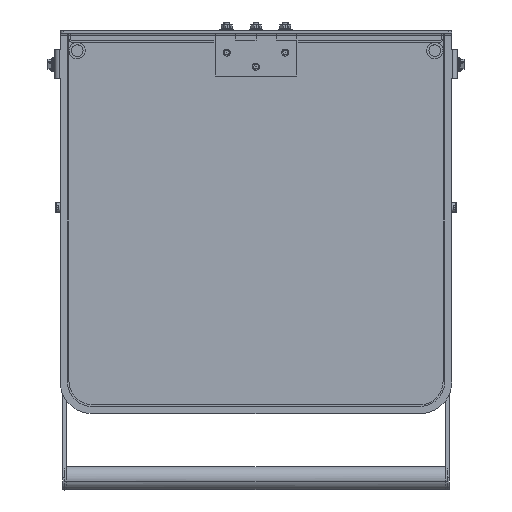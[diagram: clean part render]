
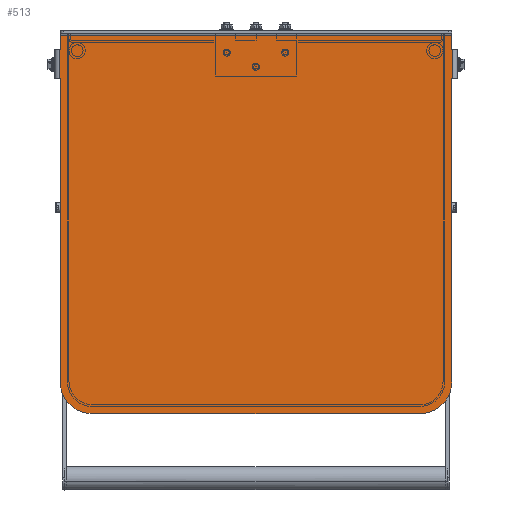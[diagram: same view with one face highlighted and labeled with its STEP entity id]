
A CAD part, top view. The second image highlights one B-rep face of the part: STEP entity #513.
In plain terms, the highlighted planar face has unit normal (0, 0, 1).
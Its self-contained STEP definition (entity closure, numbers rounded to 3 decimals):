
#363=FACE_BOUND('',#1550,.T.);
#364=FACE_BOUND('',#1551,.T.);
#365=FACE_BOUND('',#1552,.T.);
#513=ADVANCED_FACE('',(#1022,#363,#364,#365),#7420,.T.);
#1022=FACE_OUTER_BOUND('',#1549,.T.);
#1549=EDGE_LOOP('',(#2490,#2491,#2492,#2493,#2494,#2495,#2496,#2497,#2498,
#2499,#2500,#2501,#2502,#2503));
#1550=EDGE_LOOP('',(#2504,#2505));
#1551=EDGE_LOOP('',(#2506,#2507));
#1552=EDGE_LOOP('',(#2508,#2509));
#2490=ORIENTED_EDGE('',*,*,#4605,.T.);
#2491=ORIENTED_EDGE('',*,*,#4594,.T.);
#2492=ORIENTED_EDGE('',*,*,#4595,.T.);
#2493=ORIENTED_EDGE('',*,*,#4596,.T.);
#2494=ORIENTED_EDGE('',*,*,#4597,.T.);
#2495=ORIENTED_EDGE('',*,*,#4598,.T.);
#2496=ORIENTED_EDGE('',*,*,#4599,.T.);
#2497=ORIENTED_EDGE('',*,*,#4600,.T.);
#2498=ORIENTED_EDGE('',*,*,#4628,.T.);
#2499=ORIENTED_EDGE('',*,*,#4601,.T.);
#2500=ORIENTED_EDGE('',*,*,#4632,.T.);
#2501=ORIENTED_EDGE('',*,*,#4602,.T.);
#2502=ORIENTED_EDGE('',*,*,#4603,.T.);
#2503=ORIENTED_EDGE('',*,*,#4604,.T.);
#2504=ORIENTED_EDGE('',*,*,#4689,.T.);
#2505=ORIENTED_EDGE('',*,*,#4576,.T.);
#2506=ORIENTED_EDGE('',*,*,#4580,.T.);
#2507=ORIENTED_EDGE('',*,*,#4687,.T.);
#2508=ORIENTED_EDGE('',*,*,#4584,.T.);
#2509=ORIENTED_EDGE('',*,*,#4685,.T.);
#4576=EDGE_CURVE('',#6823,#6822,#6340,.T.);
#4580=EDGE_CURVE('',#6827,#6826,#6342,.T.);
#4584=EDGE_CURVE('',#6831,#6830,#6344,.T.);
#4594=EDGE_CURVE('',#6840,#6841,#5662,.T.);
#4595=EDGE_CURVE('',#6841,#6842,#5663,.T.);
#4596=EDGE_CURVE('',#6842,#6843,#5664,.T.);
#4597=EDGE_CURVE('',#6843,#6844,#5665,.T.);
#4598=EDGE_CURVE('',#6844,#6845,#5666,.T.);
#4599=EDGE_CURVE('',#6845,#6846,#5667,.T.);
#4600=EDGE_CURVE('',#6846,#6847,#5668,.T.);
#4601=EDGE_CURVE('',#6848,#6849,#5669,.T.);
#4602=EDGE_CURVE('',#6850,#6851,#5670,.T.);
#4603=EDGE_CURVE('',#6851,#6852,#5671,.T.);
#4604=EDGE_CURVE('',#6852,#6853,#5672,.T.);
#4605=EDGE_CURVE('',#6853,#6840,#5673,.T.);
#4628=EDGE_CURVE('',#6847,#6848,#6350,.T.);
#4632=EDGE_CURVE('',#6849,#6850,#6352,.T.);
#4685=EDGE_CURVE('',#6830,#6831,#6374,.T.);
#4687=EDGE_CURVE('',#6826,#6827,#6376,.T.);
#4689=EDGE_CURVE('',#6822,#6823,#6378,.T.);
#5662=B_SPLINE_CURVE_WITH_KNOTS('',1,(#11436,#11437),.UNSPECIFIED.,.F.,
 .F.,(2,2),(0.,12.),.UNSPECIFIED.);
#5663=B_SPLINE_CURVE_WITH_KNOTS('',1,(#11438,#11439),.UNSPECIFIED.,.F.,
 .F.,(2,2),(0.,335.),.UNSPECIFIED.);
#5664=B_SPLINE_CURVE_WITH_KNOTS('',1,(#11440,#11441),.UNSPECIFIED.,.F.,
 .F.,(2,2),(0.,12.),.UNSPECIFIED.);
#5665=B_SPLINE_CURVE_WITH_KNOTS('',1,(#11442,#11443),.UNSPECIFIED.,.F.,
 .F.,(2,2),(0.,1.),.UNSPECIFIED.);
#5666=B_SPLINE_CURVE_WITH_KNOTS('',1,(#11444,#11445),.UNSPECIFIED.,.F.,
 .F.,(2,2),(0.,25.),.UNSPECIFIED.);
#5667=B_SPLINE_CURVE_WITH_KNOTS('',1,(#11446,#11447),.UNSPECIFIED.,.F.,
 .F.,(2,2),(0.,1.),.UNSPECIFIED.);
#5668=B_SPLINE_CURVE_WITH_KNOTS('',1,(#11448,#11449),.UNSPECIFIED.,.F.,
 .F.,(2,2),(0.,259.5),.UNSPECIFIED.);
#5669=B_SPLINE_CURVE_WITH_KNOTS('',1,(#11450,#11451),.UNSPECIFIED.,.F.,
 .F.,(2,2),(0.,281.),.UNSPECIFIED.);
#5670=B_SPLINE_CURVE_WITH_KNOTS('',1,(#11452,#11453),.UNSPECIFIED.,.F.,
 .F.,(2,2),(0.,259.5),.UNSPECIFIED.);
#5671=B_SPLINE_CURVE_WITH_KNOTS('',1,(#11454,#11455),.UNSPECIFIED.,.F.,
 .F.,(2,2),(0.,1.),.UNSPECIFIED.);
#5672=B_SPLINE_CURVE_WITH_KNOTS('',1,(#11456,#11457),.UNSPECIFIED.,.F.,
 .F.,(2,2),(0.,25.),.UNSPECIFIED.);
#5673=B_SPLINE_CURVE_WITH_KNOTS('',1,(#11458,#11459),.UNSPECIFIED.,.F.,
 .F.,(2,2),(0.,1.),.UNSPECIFIED.);
#6340=(
BOUNDED_CURVE()
B_SPLINE_CURVE(2,(#11373,#11374,#11375,#11376,#11377),.UNSPECIFIED.,.F.,
 .F.)
B_SPLINE_CURVE_WITH_KNOTS((3,2,3),(-0.236,-0.118,
0.),.UNSPECIFIED.)
CURVE()
GEOMETRIC_REPRESENTATION_ITEM()
RATIONAL_B_SPLINE_CURVE((1.,0.707,1.,0.707,1.))
REPRESENTATION_ITEM('')
);
#6342=(
BOUNDED_CURVE()
B_SPLINE_CURVE(2,(#11387,#11388,#11389,#11390,#11391),.UNSPECIFIED.,.F.,
 .F.)
B_SPLINE_CURVE_WITH_KNOTS((3,2,3),(-0.236,-0.118,
0.),.UNSPECIFIED.)
CURVE()
GEOMETRIC_REPRESENTATION_ITEM()
RATIONAL_B_SPLINE_CURVE((1.,0.707,1.,0.707,1.))
REPRESENTATION_ITEM('')
);
#6344=(
BOUNDED_CURVE()
B_SPLINE_CURVE(2,(#11401,#11402,#11403,#11404,#11405),.UNSPECIFIED.,.F.,
 .F.)
B_SPLINE_CURVE_WITH_KNOTS((3,2,3),(-0.236,-0.118,
0.),.UNSPECIFIED.)
CURVE()
GEOMETRIC_REPRESENTATION_ITEM()
RATIONAL_B_SPLINE_CURVE((1.,0.707,1.,0.707,1.))
REPRESENTATION_ITEM('')
);
#6350=(
BOUNDED_CURVE()
B_SPLINE_CURVE(2,(#11505,#11506,#11507),.UNSPECIFIED.,.F.,.F.)
B_SPLINE_CURVE_WITH_KNOTS((3,3),(-42.412,0.),.UNSPECIFIED.)
CURVE()
GEOMETRIC_REPRESENTATION_ITEM()
RATIONAL_B_SPLINE_CURVE((1.,0.707,1.))
REPRESENTATION_ITEM('')
);
#6352=(
BOUNDED_CURVE()
B_SPLINE_CURVE(2,(#11515,#11516,#11517),.UNSPECIFIED.,.F.,.F.)
B_SPLINE_CURVE_WITH_KNOTS((3,3),(-42.412,0.),.UNSPECIFIED.)
CURVE()
GEOMETRIC_REPRESENTATION_ITEM()
RATIONAL_B_SPLINE_CURVE((1.,0.707,1.))
REPRESENTATION_ITEM('')
);
#6374=(
BOUNDED_CURVE()
B_SPLINE_CURVE(2,(#11653,#11654,#11655,#11656,#11657),.UNSPECIFIED.,.F.,
 .F.)
B_SPLINE_CURVE_WITH_KNOTS((3,2,3),(-0.236,-0.118,
0.),.UNSPECIFIED.)
CURVE()
GEOMETRIC_REPRESENTATION_ITEM()
RATIONAL_B_SPLINE_CURVE((1.,0.707,1.,0.707,1.))
REPRESENTATION_ITEM('')
);
#6376=(
BOUNDED_CURVE()
B_SPLINE_CURVE(2,(#11663,#11664,#11665,#11666,#11667),.UNSPECIFIED.,.F.,
 .F.)
B_SPLINE_CURVE_WITH_KNOTS((3,2,3),(-0.236,-0.118,
0.),.UNSPECIFIED.)
CURVE()
GEOMETRIC_REPRESENTATION_ITEM()
RATIONAL_B_SPLINE_CURVE((1.,0.707,1.,0.707,1.))
REPRESENTATION_ITEM('')
);
#6378=(
BOUNDED_CURVE()
B_SPLINE_CURVE(2,(#11673,#11674,#11675,#11676,#11677),.UNSPECIFIED.,.F.,
 .F.)
B_SPLINE_CURVE_WITH_KNOTS((3,2,3),(-0.236,-0.118,
0.),.UNSPECIFIED.)
CURVE()
GEOMETRIC_REPRESENTATION_ITEM()
RATIONAL_B_SPLINE_CURVE((1.,0.707,1.,0.707,1.))
REPRESENTATION_ITEM('')
);
#6822=VERTEX_POINT('',#11284);
#6823=VERTEX_POINT('',#11285);
#6826=VERTEX_POINT('',#11288);
#6827=VERTEX_POINT('',#11289);
#6830=VERTEX_POINT('',#11292);
#6831=VERTEX_POINT('',#11293);
#6840=VERTEX_POINT('',#11302);
#6841=VERTEX_POINT('',#11303);
#6842=VERTEX_POINT('',#11304);
#6843=VERTEX_POINT('',#11305);
#6844=VERTEX_POINT('',#11306);
#6845=VERTEX_POINT('',#11307);
#6846=VERTEX_POINT('',#11308);
#6847=VERTEX_POINT('',#11309);
#6848=VERTEX_POINT('',#11310);
#6849=VERTEX_POINT('',#11311);
#6850=VERTEX_POINT('',#11312);
#6851=VERTEX_POINT('',#11313);
#6852=VERTEX_POINT('',#11314);
#6853=VERTEX_POINT('',#11315);
#7420=PLANE('',#8395);
#8395=AXIS2_PLACEMENT_3D('',#10908,#8767,$);
#8767=DIRECTION('',(0.,0.,1.));
#10908=CARTESIAN_POINT('',(-202.2,-209.85,1.5));
#11284=CARTESIAN_POINT('',(-25.075,131.25,1.5));
#11285=CARTESIAN_POINT('',(-24.925,131.25,1.5));
#11288=CARTESIAN_POINT('',(24.925,131.25,1.5));
#11289=CARTESIAN_POINT('',(25.075,131.25,1.5));
#11292=CARTESIAN_POINT('',(-0.075,119.25,1.5));
#11293=CARTESIAN_POINT('',(0.075,119.25,1.5));
#11302=CARTESIAN_POINT('',(167.5,134.,1.5));
#11303=CARTESIAN_POINT('',(167.5,146.,1.5));
#11304=CARTESIAN_POINT('',(-167.5,146.,1.5));
#11305=CARTESIAN_POINT('',(-167.5,134.,1.5));
#11306=CARTESIAN_POINT('',(-168.5,134.,1.5));
#11307=CARTESIAN_POINT('',(-168.5,109.,1.5));
#11308=CARTESIAN_POINT('',(-167.5,109.,1.5));
#11309=CARTESIAN_POINT('',(-167.5,-150.5,1.5));
#11310=CARTESIAN_POINT('',(-140.5,-177.5,1.5));
#11311=CARTESIAN_POINT('',(140.5,-177.5,1.5));
#11312=CARTESIAN_POINT('',(167.5,-150.5,1.5));
#11313=CARTESIAN_POINT('',(167.5,109.,1.5));
#11314=CARTESIAN_POINT('',(168.5,109.,1.5));
#11315=CARTESIAN_POINT('',(168.5,134.,1.5));
#11373=CARTESIAN_POINT('',(-24.925,131.25,1.5));
#11374=CARTESIAN_POINT('',(-24.925,131.175,1.5));
#11375=CARTESIAN_POINT('',(-25.,131.175,1.5));
#11376=CARTESIAN_POINT('',(-25.075,131.175,1.5));
#11377=CARTESIAN_POINT('',(-25.075,131.25,1.5));
#11387=CARTESIAN_POINT('',(25.075,131.25,1.5));
#11388=CARTESIAN_POINT('',(25.075,131.175,1.5));
#11389=CARTESIAN_POINT('',(25.,131.175,1.5));
#11390=CARTESIAN_POINT('',(24.925,131.175,1.5));
#11391=CARTESIAN_POINT('',(24.925,131.25,1.5));
#11401=CARTESIAN_POINT('',(0.075,119.25,1.5));
#11402=CARTESIAN_POINT('',(0.075,119.175,1.5));
#11403=CARTESIAN_POINT('',(0.,119.175,1.5));
#11404=CARTESIAN_POINT('',(-0.075,119.175,1.5));
#11405=CARTESIAN_POINT('',(-0.075,119.25,1.5));
#11436=CARTESIAN_POINT('',(167.5,134.,1.5));
#11437=CARTESIAN_POINT('',(167.5,146.,1.5));
#11438=CARTESIAN_POINT('',(167.5,146.,1.5));
#11439=CARTESIAN_POINT('',(-167.5,146.,1.5));
#11440=CARTESIAN_POINT('',(-167.5,146.,1.5));
#11441=CARTESIAN_POINT('',(-167.5,134.,1.5));
#11442=CARTESIAN_POINT('',(-167.5,134.,1.5));
#11443=CARTESIAN_POINT('',(-168.5,134.,1.5));
#11444=CARTESIAN_POINT('',(-168.5,134.,1.5));
#11445=CARTESIAN_POINT('',(-168.5,109.,1.5));
#11446=CARTESIAN_POINT('',(-168.5,109.,1.5));
#11447=CARTESIAN_POINT('',(-167.5,109.,1.5));
#11448=CARTESIAN_POINT('',(-167.5,109.,1.5));
#11449=CARTESIAN_POINT('',(-167.5,-150.5,1.5));
#11450=CARTESIAN_POINT('',(-140.5,-177.5,1.5));
#11451=CARTESIAN_POINT('',(140.5,-177.5,1.5));
#11452=CARTESIAN_POINT('',(167.5,-150.5,1.5));
#11453=CARTESIAN_POINT('',(167.5,109.,1.5));
#11454=CARTESIAN_POINT('',(167.5,109.,1.5));
#11455=CARTESIAN_POINT('',(168.5,109.,1.5));
#11456=CARTESIAN_POINT('',(168.5,109.,1.5));
#11457=CARTESIAN_POINT('',(168.5,134.,1.5));
#11458=CARTESIAN_POINT('',(168.5,134.,1.5));
#11459=CARTESIAN_POINT('',(167.5,134.,1.5));
#11505=CARTESIAN_POINT('',(-167.5,-150.5,1.5));
#11506=CARTESIAN_POINT('',(-167.5,-177.5,1.5));
#11507=CARTESIAN_POINT('',(-140.5,-177.5,1.5));
#11515=CARTESIAN_POINT('',(140.5,-177.5,1.5));
#11516=CARTESIAN_POINT('',(167.5,-177.5,1.5));
#11517=CARTESIAN_POINT('',(167.5,-150.5,1.5));
#11653=CARTESIAN_POINT('',(-0.075,119.25,1.5));
#11654=CARTESIAN_POINT('',(-0.075,119.325,1.5));
#11655=CARTESIAN_POINT('',(0.,119.325,1.5));
#11656=CARTESIAN_POINT('',(0.075,119.325,1.5));
#11657=CARTESIAN_POINT('',(0.075,119.25,1.5));
#11663=CARTESIAN_POINT('',(24.925,131.25,1.5));
#11664=CARTESIAN_POINT('',(24.925,131.325,1.5));
#11665=CARTESIAN_POINT('',(25.,131.325,1.5));
#11666=CARTESIAN_POINT('',(25.075,131.325,1.5));
#11667=CARTESIAN_POINT('',(25.075,131.25,1.5));
#11673=CARTESIAN_POINT('',(-25.075,131.25,1.5));
#11674=CARTESIAN_POINT('',(-25.075,131.325,1.5));
#11675=CARTESIAN_POINT('',(-25.,131.325,1.5));
#11676=CARTESIAN_POINT('',(-24.925,131.325,1.5));
#11677=CARTESIAN_POINT('',(-24.925,131.25,1.5));
